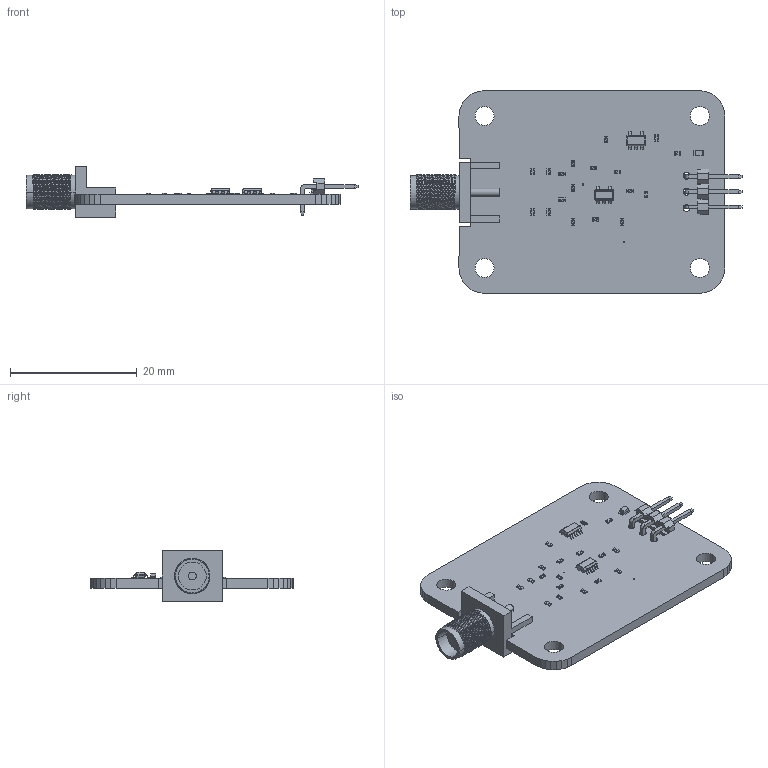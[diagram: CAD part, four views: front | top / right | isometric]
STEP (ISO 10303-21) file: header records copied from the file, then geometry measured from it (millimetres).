
FILE_DESCRIPTION(('for SolidWorks'),'2;1');
FILE_NAME('C:\Users\Efrem-PC\Desktop\3D DESIGNS\Atlas Products\Gravity\RTD-Gravity.step','2023-10-24T14:22:46',('Efrem-PC'), (''),'Open CASCADE STEP processor 6.6','DipTrace','Unknown');
FILE_SCHEMA(('AUTOMOTIVE_DESIGN { 1 0 10303 214 1 1 1 1 }'));
Length unit declared in the file: millimetre
Products named in the file (7): PCB_RTD-Gravity; Board_RTD-Gravity; hdr-1x3th_2_6x7; sot23-5; apt1608; SMA_edge_mount; res_0402
Assembly tree (24 placements, depth 2):
  PCB_RTD-Gravity
    Board_RTD-Gravity
    hdr-1x3th_2_6x7
    sot23-5  x2
    apt1608
    SMA_edge_mount
    res_0402  x18
Bounding box: 52.43 x 32 x 8 mm (x, y, z)
Volume: 2355.7 mm3; surface area: 3673.3 mm2
Topology: 20 solids, 38 shells, 2966 faces, 5255 edges, 2388 vertices
Faces by surface type: plane 2644, bspline 207, cylinder 115
Full cylindrical faces by diameter (mm): 0.2 x2, 1.05 x3, 3 x4
Entity records: 38025 total; most frequent: CARTESIAN_POINT 16167, ORIENTED_EDGE 3746, DIRECTION 2740, EDGE_CURVE 1873, LINE 1328, VECTOR 1328, VERTEX_POINT 1172, FACE_BOUND 827
